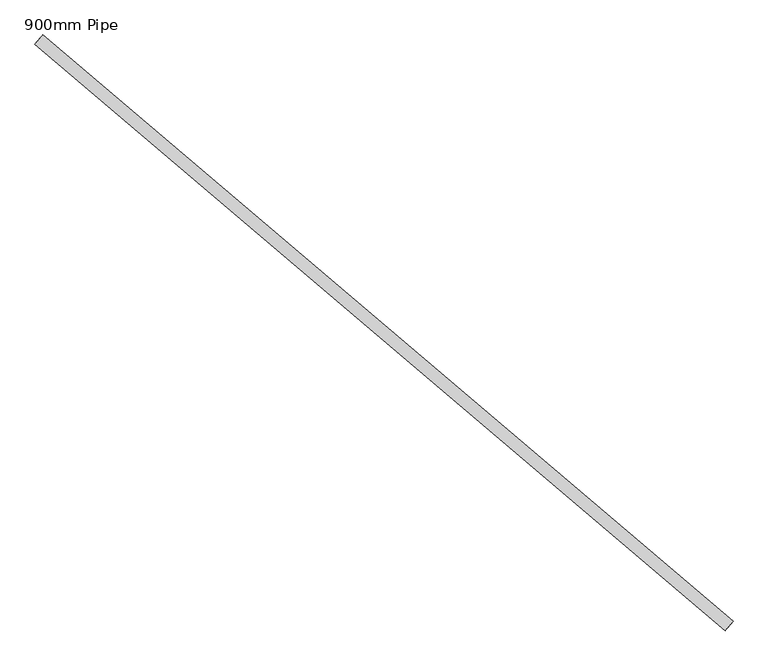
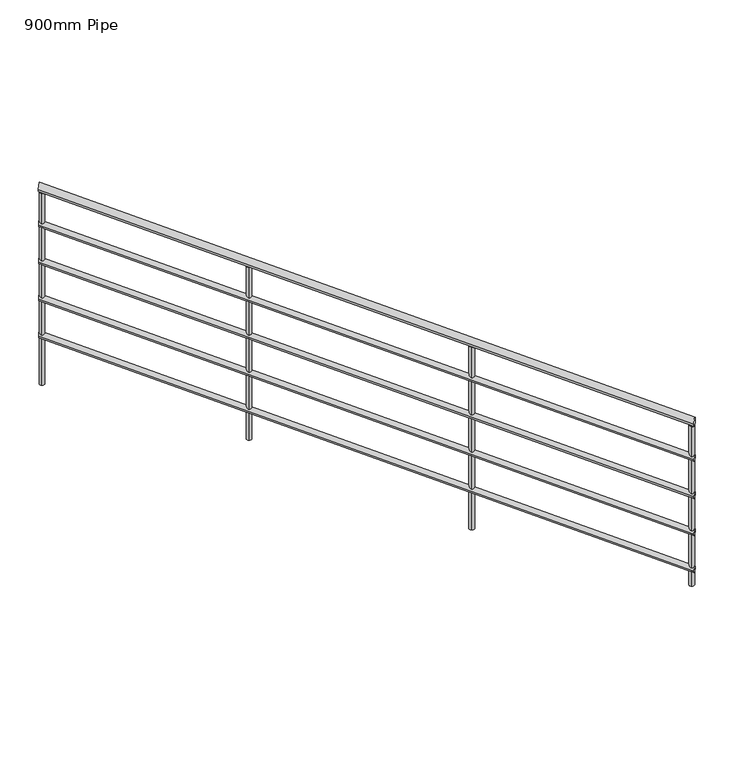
"""IFC4 building model written with IfcOpenShell, lengths in millimetres: railing geometry, 900mm Pipe."""

from ifc_helpers import new_model, si_unit, frame, origin, place, context, project, spatial, circle_curve, ellipse_curve, source, transform, mapped, element, save
from ifc_brep_helpers import plane_surface, cylinder_surface, advanced_brep


def railing_900mm_pipe_5b70dc80(model_context):
    return source(origin(), model_context, "Body", "AdvancedBrep", [
        advanced_brep(
        [(884938.3215181, 15568.9993396, 5058.386247), (884964.2157592, 15599.4868498, 5058.386247), (882695.9240968, 17473.5556449, 5954.8568352), (882721.818338, 17504.043155, 5954.8568352)],
        [
            (0, 1, ellipse_curve(frame((884951.2686387, 15584.2430947, 5058.386247), z_axis=(0.7621877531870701, -0.6473560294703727, 0.0), x_axis=(0.0, 0.0, -1.0)), 20.9078706, 20.0)),
            (1, 0, ellipse_curve(frame((884951.2686387, 15584.2430947, 5058.386247), z_axis=(0.7621877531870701, -0.6473560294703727, 0.0), x_axis=(0.0, 0.0, -1.0)), 20.9078706, 20.0)),
            (2, 3, ellipse_curve(frame((882708.8712174, 17488.7994, 5954.8568352), z_axis=(-0.7621877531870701, 0.6473560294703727, 0.0), x_axis=(0.0, 0.0, -1.0)), 20.9078706, 20.0)),
            (3, 2, ellipse_curve(frame((882708.8712174, 17488.7994, 5954.8568352), z_axis=(-0.7621877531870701, 0.6473560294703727, 0.0), x_axis=(0.0, 0.0, -1.0)), 20.9078706, 20.0)),
            (0, 2),
            (3, 1),
        ],
        [
            plane_surface(frame((884951.2686387, 15584.2430947, 5079.2941176), z_axis=(0.7621877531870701, -0.6473560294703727, 0.0), x_axis=(0.6473560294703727, 0.7621877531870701, 0.0))),
            plane_surface(frame((882708.8712174, 17488.7994, 5975.7647059), z_axis=(-0.7621877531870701, 0.6473560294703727, 0.0), x_axis=(0.6473560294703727, 0.7621877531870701, 0.0))),
            cylinder_surface(frame((884946.8254211, 15588.0168941, 5060.1625663), z_axis=(0.7290917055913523, -0.6192462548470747, -0.29147789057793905), x_axis=(0.6473560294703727, 0.7621877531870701, 0.0)), 20.0),
        ],
        [
            (0, [[1, 2]]),
            (1, [[3, 4]]),
            (2, [[-1, 5, -4, 6]]),
            (2, [[-2, -6, -3, -5]]),
        ],
    ),
        advanced_brep(
        [(884941.5582982, 15572.8102784, 4863.6132147), (884960.9789791, 15595.675911, 4863.6132147), (882699.160877, 17477.3665837, 5760.0838029), (882718.5815578, 17500.2322163, 5760.0838029)],
        [
            (0, 1, ellipse_curve(frame((884951.2686387, 15584.2430947, 4863.6132147), z_axis=(0.7621877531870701, -0.6473560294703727, 0.0), x_axis=(0.0, 0.0, -1.0)), 15.680903, 15.0)),
            (1, 0, ellipse_curve(frame((884951.2686387, 15584.2430947, 4863.6132147), z_axis=(0.7621877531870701, -0.6473560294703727, 0.0), x_axis=(0.0, 0.0, -1.0)), 15.680903, 15.0)),
            (2, 3, ellipse_curve(frame((882708.8712174, 17488.7994, 5760.0838029), z_axis=(-0.7621877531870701, 0.6473560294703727, 0.0), x_axis=(0.0, 0.0, -1.0)), 15.680903, 15.0)),
            (3, 2, ellipse_curve(frame((882708.8712174, 17488.7994, 5760.0838029), z_axis=(-0.7621877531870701, 0.6473560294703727, 0.0), x_axis=(0.0, 0.0, -1.0)), 15.680903, 15.0)),
            (0, 2),
            (3, 1),
        ],
        [
            plane_surface(frame((884951.2686387, 15584.2430947, 4879.2941176), z_axis=(0.7621877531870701, -0.6473560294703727, 0.0), x_axis=(0.6473560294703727, 0.7621877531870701, 0.0))),
            plane_surface(frame((882708.8712174, 17488.7994, 5775.7647059), z_axis=(-0.7621877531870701, 0.6473560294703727, 0.0), x_axis=(0.6473560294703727, 0.7621877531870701, 0.0))),
            cylinder_surface(frame((884947.9362255, 15587.0734443, 4864.9454542), z_axis=(0.7290917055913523, -0.6192462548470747, -0.29147789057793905), x_axis=(0.6473560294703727, 0.7621877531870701, 0.0)), 15.0),
        ],
        [
            (0, [[1, 2]]),
            (1, [[3, 4]]),
            (2, [[-1, 5, -4, 6]]),
            (2, [[-2, -6, -3, -5]]),
        ],
    ),
        advanced_brep(
        [(884941.5582982, 15572.8102784, 4663.6132147), (884960.9789791, 15595.675911, 4663.6132147), (882699.160877, 17477.3665837, 5560.0838029), (882718.5815578, 17500.2322163, 5560.0838029)],
        [
            (0, 1, ellipse_curve(frame((884951.2686387, 15584.2430947, 4663.6132147), z_axis=(0.7621877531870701, -0.6473560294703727, 0.0), x_axis=(0.0, 0.0, -1.0)), 15.680903, 15.0)),
            (1, 0, ellipse_curve(frame((884951.2686387, 15584.2430947, 4663.6132147), z_axis=(0.7621877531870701, -0.6473560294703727, 0.0), x_axis=(0.0, 0.0, -1.0)), 15.680903, 15.0)),
            (2, 3, ellipse_curve(frame((882708.8712174, 17488.7994, 5560.0838029), z_axis=(-0.7621877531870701, 0.6473560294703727, 0.0), x_axis=(0.0, 0.0, -1.0)), 15.680903, 15.0)),
            (3, 2, ellipse_curve(frame((882708.8712174, 17488.7994, 5560.0838029), z_axis=(-0.7621877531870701, 0.6473560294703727, 0.0), x_axis=(0.0, 0.0, -1.0)), 15.680903, 15.0)),
            (0, 2),
            (3, 1),
        ],
        [
            plane_surface(frame((884951.2686387, 15584.2430947, 4679.2941176), z_axis=(0.7621877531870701, -0.6473560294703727, 0.0), x_axis=(0.6473560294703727, 0.7621877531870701, 0.0))),
            plane_surface(frame((882708.8712174, 17488.7994, 5575.7647059), z_axis=(-0.7621877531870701, 0.6473560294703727, 0.0), x_axis=(0.6473560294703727, 0.7621877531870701, 0.0))),
            cylinder_surface(frame((884947.9362255, 15587.0734443, 4664.9454542), z_axis=(0.7290917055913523, -0.6192462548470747, -0.29147789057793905), x_axis=(0.6473560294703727, 0.7621877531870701, 0.0)), 15.0),
        ],
        [
            (0, [[1, 2]]),
            (1, [[3, 4]]),
            (2, [[-1, 5, -4, 6]]),
            (2, [[-2, -6, -3, -5]]),
        ],
    ),
        advanced_brep(
        [(884941.5582982, 15572.8102784, 4463.6132147), (884960.9789791, 15595.675911, 4463.6132147), (882699.160877, 17477.3665837, 5360.0838029), (882718.5815578, 17500.2322163, 5360.0838029)],
        [
            (0, 1, ellipse_curve(frame((884951.2686387, 15584.2430947, 4463.6132147), z_axis=(0.7621877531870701, -0.6473560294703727, 0.0), x_axis=(0.0, 0.0, -1.0)), 15.680903, 15.0)),
            (1, 0, ellipse_curve(frame((884951.2686387, 15584.2430947, 4463.6132147), z_axis=(0.7621877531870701, -0.6473560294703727, 0.0), x_axis=(0.0, 0.0, -1.0)), 15.680903, 15.0)),
            (2, 3, ellipse_curve(frame((882708.8712174, 17488.7994, 5360.0838029), z_axis=(-0.7621877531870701, 0.6473560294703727, 0.0), x_axis=(0.0, 0.0, -1.0)), 15.680903, 15.0)),
            (3, 2, ellipse_curve(frame((882708.8712174, 17488.7994, 5360.0838029), z_axis=(-0.7621877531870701, 0.6473560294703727, 0.0), x_axis=(0.0, 0.0, -1.0)), 15.680903, 15.0)),
            (0, 2),
            (3, 1),
        ],
        [
            plane_surface(frame((884951.2686387, 15584.2430947, 4479.2941176), z_axis=(0.7621877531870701, -0.6473560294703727, 0.0), x_axis=(0.6473560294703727, 0.7621877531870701, 0.0))),
            plane_surface(frame((882708.8712174, 17488.7994, 5375.7647059), z_axis=(-0.7621877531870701, 0.6473560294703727, 0.0), x_axis=(0.6473560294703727, 0.7621877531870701, 0.0))),
            cylinder_surface(frame((884947.9362255, 15587.0734443, 4464.9454542), z_axis=(0.7290917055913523, -0.6192462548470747, -0.29147789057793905), x_axis=(0.6473560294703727, 0.7621877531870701, 0.0)), 15.0),
        ],
        [
            (0, [[1, 2]]),
            (1, [[3, 4]]),
            (2, [[-1, 5, -4, 6]]),
            (2, [[-2, -6, -3, -5]]),
        ],
    ),
        advanced_brep(
        [(884941.5582982, 15572.8102784, 4263.6132147), (884960.9789791, 15595.675911, 4263.6132147), (882699.160877, 17477.3665837, 5160.0838029), (882718.5815578, 17500.2322163, 5160.0838029)],
        [
            (0, 1, ellipse_curve(frame((884951.2686387, 15584.2430947, 4263.6132147), z_axis=(0.7621877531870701, -0.6473560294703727, 0.0), x_axis=(0.0, 0.0, -1.0)), 15.680903, 15.0)),
            (1, 0, ellipse_curve(frame((884951.2686387, 15584.2430947, 4263.6132147), z_axis=(0.7621877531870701, -0.6473560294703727, 0.0), x_axis=(0.0, 0.0, -1.0)), 15.680903, 15.0)),
            (2, 3, ellipse_curve(frame((882708.8712174, 17488.7994, 5160.0838029), z_axis=(-0.7621877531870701, 0.6473560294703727, 0.0), x_axis=(0.0, 0.0, -1.0)), 15.680903, 15.0)),
            (3, 2, ellipse_curve(frame((882708.8712174, 17488.7994, 5160.0838029), z_axis=(-0.7621877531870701, 0.6473560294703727, 0.0), x_axis=(0.0, 0.0, -1.0)), 15.680903, 15.0)),
            (0, 2),
            (3, 1),
        ],
        [
            plane_surface(frame((884951.2686387, 15584.2430947, 4279.2941176), z_axis=(0.7621877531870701, -0.6473560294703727, 0.0), x_axis=(0.6473560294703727, 0.7621877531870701, 0.0))),
            plane_surface(frame((882708.8712174, 17488.7994, 5175.7647059), z_axis=(-0.7621877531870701, 0.6473560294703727, 0.0), x_axis=(0.6473560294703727, 0.7621877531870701, 0.0))),
            cylinder_surface(frame((884947.9362255, 15587.0734443, 4264.9454542), z_axis=(0.7290917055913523, -0.6192462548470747, -0.29147789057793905), x_axis=(0.6473560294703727, 0.7621877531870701, 0.0)), 15.0),
        ],
        [
            (0, [[1, 2]]),
            (1, [[3, 4]]),
            (2, [[-1, 5, -4, 6]]),
            (2, [[-2, -6, -3, -5]]),
        ],
    ),
        advanced_brep(
        [(883434.9850827, 16888.4825006, 5646.8965794), (883434.9850827, 16888.4825006, 4717.1764706), (883418.8011819, 16869.4278067, 4717.1764706), (883418.8011819, 16869.4278067, 5646.8965794)],
        [
            (0, 1),
            (1, 2, circle_curve(frame((883426.8931323, 16878.9551537, 4717.1764706), z_axis=(0.0, 0.0, 1.0000000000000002), x_axis=(-0.6473560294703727, -0.7621877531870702, 0.0)), 12.5)),
            (2, 3),
            (3, 0, ellipse_curve(frame((883426.8931323, 16878.9551537, 5646.8965794), z_axis=(-0.2221608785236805, 0.18868996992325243, -0.9565775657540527), x_axis=(-0.7290917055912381, 0.6192462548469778, 0.29147789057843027)), 13.0674191, 12.5)),
            (0, 3, ellipse_curve(frame((883426.8931323, 16878.9551537, 5646.8965794), z_axis=(-0.2221608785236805, 0.18868996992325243, -0.9565775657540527), x_axis=(-0.7290917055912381, 0.6192462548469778, 0.29147789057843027)), 13.0674191, 12.5)),
            (2, 1, circle_curve(frame((883426.8931323, 16878.9551537, 4717.1764706), z_axis=(0.0, 0.0, 1.0000000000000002), x_axis=(-0.6473560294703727, -0.7621877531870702, 0.0)), 12.5)),
        ],
        [
            cylinder_surface(frame((883426.8931323, 16878.9551537, 4617.1764706), z_axis=(0.0, 0.0, 1.0000000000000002), x_axis=(-0.6473560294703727, -0.7621877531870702, 0.0)), 12.5),
            plane_surface(frame((883391.6545377, 16876.0843606, 5654.5143069), z_axis=(0.2221608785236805, -0.18868996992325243, 0.9565775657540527), x_axis=(0.6473560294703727, 0.7621877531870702, 0.0))),
            plane_surface(frame((883429.7639254, 16843.7165591, 4717.1764706), z_axis=(0.0, 0.0, -1.0000000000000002), x_axis=(0.6473560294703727, 0.7621877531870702, 0.0))),
        ],
        [
            (0, [[1, 2, 3, 4]]),
            (0, [[-1, 5, -3, 6]]),
            (1, [[-4, -5]]),
            (2, [[-2, -6]]),
        ],
    ),
        advanced_brep(
        [(884197.1728358, 16241.1264711, 5342.1874779), (884197.1728358, 16241.1264711, 4358.5882353), (884180.9889351, 16222.0717773, 4358.5882353), (884180.9889351, 16222.0717773, 5342.1874779)],
        [
            (0, 1),
            (1, 2, circle_curve(frame((884189.0808855, 16231.5991242, 4358.5882353), z_axis=(0.0, 0.0, 1.0000000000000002), x_axis=(-0.6473560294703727, -0.7621877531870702, 0.0)), 12.5)),
            (2, 3),
            (3, 0, ellipse_curve(frame((884189.0808855, 16231.5991242, 5342.1874779), z_axis=(-0.22216087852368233, 0.188689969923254, -0.956577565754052), x_axis=(-0.7290917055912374, 0.6192462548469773, 0.2914778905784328)), 13.0674191, 12.5)),
            (0, 3, ellipse_curve(frame((884189.0808855, 16231.5991242, 5342.1874779), z_axis=(-0.22216087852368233, 0.188689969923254, -0.956577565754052), x_axis=(-0.7290917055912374, 0.6192462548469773, 0.2914778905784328)), 13.0674191, 12.5)),
            (2, 1, circle_curve(frame((884189.0808855, 16231.5991242, 4358.5882353), z_axis=(0.0, 0.0, 1.0000000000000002), x_axis=(-0.6473560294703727, -0.7621877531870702, 0.0)), 12.5)),
        ],
        [
            cylinder_surface(frame((884189.0808855, 16231.5991242, 4258.5882353), z_axis=(0.0, 0.0, 1.0000000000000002), x_axis=(-0.6473560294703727, -0.7621877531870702, 0.0)), 12.5),
            plane_surface(frame((884153.8422909, 16228.7283311, 5349.8052054), z_axis=(0.22216087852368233, -0.188689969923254, 0.956577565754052), x_axis=(0.6473560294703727, 0.7621877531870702, 0.0))),
            plane_surface(frame((884191.9516786, 16196.3605296, 4358.5882353), z_axis=(0.0, 0.0, -1.0000000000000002), x_axis=(0.6473560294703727, 0.7621877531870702, 0.0))),
        ],
        [
            (0, [[1, 2, 3, 4]]),
            (0, [[-1, 5, -3, 6]]),
            (1, [[-4, -5]]),
            (2, [[-2, -6]]),
        ],
    ),
        advanced_brep(
        [(882726.4905147, 17490.2347965, 5930.1401008), (882726.4905147, 17490.2347965, 4896.4705882), (882710.3066139, 17471.1801027, 4896.4705882), (882710.3066139, 17471.1801027, 5930.1401008)],
        [
            (0, 1),
            (1, 2, circle_curve(frame((882718.3985643, 17480.7074496, 4896.4705882), z_axis=(0.0, 0.0, 1.0000000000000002), x_axis=(-0.6473560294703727, -0.7621877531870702, 0.0)), 12.5)),
            (2, 3),
            (3, 0, ellipse_curve(frame((882718.3985643, 17480.7074496, 5930.1401008), z_axis=(-0.2221608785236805, 0.18868996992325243, -0.9565775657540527), x_axis=(-0.7290917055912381, 0.6192462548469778, 0.29147789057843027)), 13.0674191, 12.5)),
            (0, 3, ellipse_curve(frame((882718.3985643, 17480.7074496, 5930.1401008), z_axis=(-0.2221608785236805, 0.18868996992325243, -0.9565775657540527), x_axis=(-0.7290917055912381, 0.6192462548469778, 0.29147789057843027)), 13.0674191, 12.5)),
            (2, 1, circle_curve(frame((882718.3985643, 17480.7074496, 4896.4705882), z_axis=(0.0, 0.0, 1.0000000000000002), x_axis=(-0.6473560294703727, -0.7621877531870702, 0.0)), 12.5)),
        ],
        [
            cylinder_surface(frame((882718.3985643, 17480.7074496, 4796.4705882), z_axis=(0.0, 0.0, 1.0000000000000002), x_axis=(-0.6473560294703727, -0.7621877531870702, 0.0)), 12.5),
            plane_surface(frame((882683.1599697, 17477.8366565, 5937.7578284), z_axis=(0.2221608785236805, -0.18868996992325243, 0.9565775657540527), x_axis=(0.6473560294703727, 0.7621877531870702, 0.0))),
            plane_surface(frame((882721.2693574, 17445.468855, 4896.4705882), z_axis=(0.0, 0.0, -1.0000000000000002), x_axis=(0.6473560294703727, 0.7621877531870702, 0.0))),
        ],
        [
            (0, [[1, 2, 3, 4]]),
            (0, [[-1, 5, -3, 6]]),
            (1, [[-4, -5]]),
            (2, [[-2, -6]]),
        ],
    ),
        advanced_brep(
        [(884949.8332421, 15601.862392, 5041.2872401), (884949.8332421, 15601.862392, 4179.2941176), (884933.6493414, 15582.8076982, 4179.2941176), (884933.6493414, 15582.8076982, 5041.2872401)],
        [
            (0, 1),
            (1, 2, circle_curve(frame((884941.7412917, 15592.3350451, 4179.2941176), z_axis=(0.0, 0.0, 1.0000000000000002), x_axis=(-0.6473560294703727, -0.7621877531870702, 0.0)), 12.5)),
            (2, 3),
            (3, 0, ellipse_curve(frame((884941.7412917, 15592.3350451, 5041.2872401), z_axis=(-0.22216087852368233, 0.188689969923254, -0.956577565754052), x_axis=(-0.7290917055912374, 0.6192462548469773, 0.2914778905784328)), 13.0674191, 12.5)),
            (0, 3, ellipse_curve(frame((884941.7412917, 15592.3350451, 5041.2872401), z_axis=(-0.22216087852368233, 0.188689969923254, -0.956577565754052), x_axis=(-0.7290917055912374, 0.6192462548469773, 0.2914778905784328)), 13.0674191, 12.5)),
            (2, 1, circle_curve(frame((884941.7412917, 15592.3350451, 4179.2941176), z_axis=(0.0, 0.0, 1.0000000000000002), x_axis=(-0.6473560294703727, -0.7621877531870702, 0.0)), 12.5)),
        ],
        [
            cylinder_surface(frame((884941.7412917, 15592.3350451, 4079.2941176), z_axis=(0.0, 0.0, 1.0000000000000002), x_axis=(-0.6473560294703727, -0.7621877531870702, 0.0)), 12.5),
            plane_surface(frame((884906.5026972, 15589.464252, 5048.9049677), z_axis=(0.22216087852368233, -0.188689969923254, 0.956577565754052), x_axis=(0.6473560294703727, 0.7621877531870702, 0.0))),
            plane_surface(frame((884944.6120848, 15557.0964505, 4179.2941176), z_axis=(0.0, 0.0, -1.0000000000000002), x_axis=(0.6473560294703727, 0.7621877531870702, 0.0))),
        ],
        [
            (0, [[1, 2, 3, 4]]),
            (0, [[-1, 5, -3, 6]]),
            (1, [[-4, -5]]),
            (2, [[-2, -6]]),
        ],
    ),
    ])


if __name__ == "__main__":
    model = new_model("IFC4")
    model_context = context("Model", 3, world=origin())
    ifc_project = project(units=[si_unit("LENGTHUNIT", "METRE", prefix="MILLI")], contexts=[model_context])
    site = spatial("IfcSite", under=ifc_project)
    building = spatial("IfcBuilding", under=site)
    placement = place(None, origin())
    railing_900mm_pipe_shape = railing_900mm_pipe_5b70dc80(model_context)
    element("IfcRailing", 1, ObjectType="900mm Pipe", at=placement, inside=building, context=model_context, shape_type="MappedRepresentation", body=[
        mapped(railing_900mm_pipe_shape, transform((0.0, 0.0, 0.0), x_axis=(1.0, 0.0, 0.0), y_axis=(0.0, 1.0, 0.0), z_axis=(0.0, 0.0, 1.0))),
    ])
    save(model, "model.ifc")
